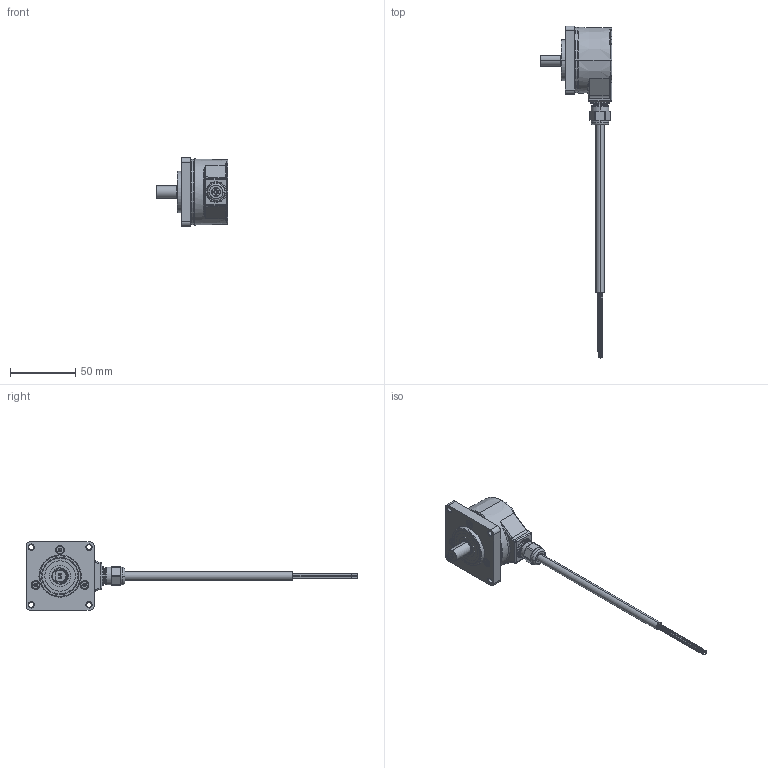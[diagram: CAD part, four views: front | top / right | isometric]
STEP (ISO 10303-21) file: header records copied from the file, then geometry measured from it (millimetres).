
FILE_DESCRIPTION (( 'STEP AP203' ), '1' );
FILE_NAME ('847T-DNXX-RPXXXXX.STEP', '2014-09-23T22:38:08', ( 'Windows 7 64-Bit' ), ( 'SICK Inc.' ), 'SwSTEP 2.0', 'SolidWorks 2014', '' );
FILE_SCHEMA (( 'CONFIG_CONTROL_DESIGN' ));
Length unit declared in the file: millimetre
Products named in the file (1): 847T-DNXX-RPXXXXX
Bounding box: 54.97 x 255.19 x 52.39 mm (x, y, z)
Surface area: 20536.4 mm2 (no closed solid volume)
Topology: 0 solids, 33 shells, 355 faces, 1005 edges, 639 vertices
Faces by surface type: cylinder 152, cone 68, plane 60, bspline 34, torus 29, sphere 12
Entity records: 12873 total; most frequent: CARTESIAN_POINT 4024, DIRECTION 1925, ORIENTED_EDGE 1656, EDGE_CURVE 980, AXIS2_PLACEMENT_3D 818, VERTEX_POINT 639, CIRCLE 496, EDGE_LOOP 392
